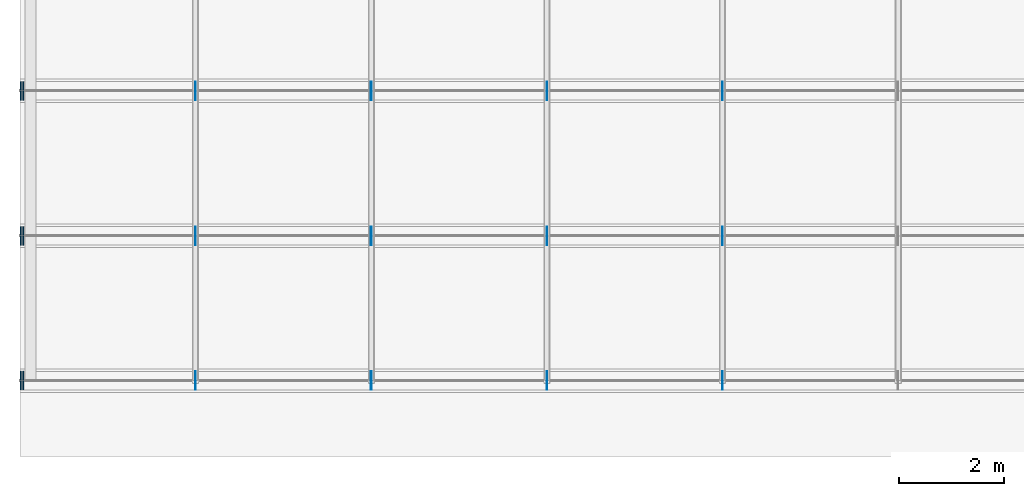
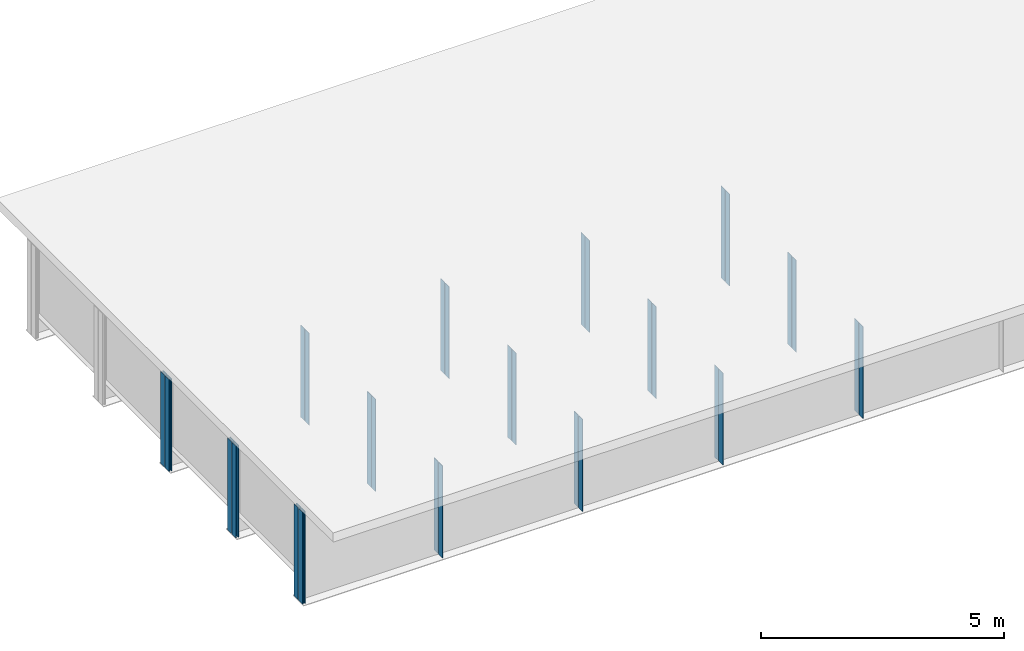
# One storey, part 3 of 19: 36 plates.
"""IFC4 building model written with IfcOpenShell, lengths in metres."""

import ifcopenshell
import ifcopenshell.guid

model = None  # the IFC model being written
_history = None  # IfcOwnerHistory: only IFC2X3 demands one
_inside = {}  # id of a spatial element -> (the spatial element, [elements in it])
_under = {}  # id of a project, library or spatial element -> (it, [spatial elements below it])
_declared = {}  # id of a project -> (the project, [libraries it declares])
_typed = {}  # id of a type object -> (the type object, [elements of that type])
_made_of = {}  # id of a material, layer set ... -> (it, [elements and type objects made of it])


def new_model(schema):
    """Start an empty IFC model of exactly this schema.

    Asked for "IFC4X3", IfcOpenShell would pick the latest addendum, in which some entities
    have other attributes; the version numbers below select the first issue.
    IFC2X3 requires an IfcOwnerHistory on every rooted entity: one is made here for all.
    """
    global model, _history
    if schema == "IFC4X3":
        model = ifcopenshell.file(schema_version=(4, 3, 0, 0))
    else:
        model = ifcopenshell.file(schema=schema)
    _inside.clear()
    _under.clear()
    _declared.clear()
    _typed.clear()
    _made_of.clear()
    _history = None
    if model.schema == "IFC2X3":
        org = make("IfcOrganization", Name="unknown")
        user = make(
            "IfcPersonAndOrganization",
            ThePerson=make("IfcPerson", FamilyName="unknown"),
            TheOrganization=org,
        )
        app = make(
            "IfcApplication",
            ApplicationDeveloper=org,
            Version="unknown",
            ApplicationFullName="unknown",
            ApplicationIdentifier="unknown",
        )
        _history = make(
            "IfcOwnerHistory",
            OwningUser=user,
            OwningApplication=app,
            ChangeAction="ADDED",
            CreationDate=0,
        )
    return model


def make(cls, **values):
    """One entity of the class cls with the attributes given. An attribute that is None is left unset."""
    return model.create_entity(
        cls, **{name: value for name, value in values.items() if value is not None}
    )


def rooted(cls, **values):
    """An entity with a GlobalId (a new one), such as an element, a storey or a relation."""
    return make(cls, GlobalId=ifcopenshell.guid.new(), OwnerHistory=_history, **values)


def si_unit(unit_type, name, prefix=None):
    """IfcSIUnit, for example si_unit("LENGTHUNIT", "METRE", prefix="MILLI")."""
    return make("IfcSIUnit", UnitType=unit_type, Prefix=prefix, Name=name)


def assignment(units):
    """IfcUnitAssignment: the units of a project."""
    return None if units is None else make("IfcUnitAssignment", Units=units)


def point(xyz):
    """IfcCartesianPoint."""
    return None if xyz is None else make("IfcCartesianPoint", Coordinates=xyz)


def direction(xyz):
    """IfcDirection."""
    return None if xyz is None else make("IfcDirection", DirectionRatios=xyz)


def frame(location, z_axis=None, x_axis=None):
    """IfcAxis2Placement3D, a coordinate frame: its origin and axes. An axis left out is left unset."""
    return make(
        "IfcAxis2Placement3D",
        Location=point(location),
        Axis=direction(z_axis),
        RefDirection=direction(x_axis),
    )


def frame_2d(location, x_axis=None):
    """IfcAxis2Placement2D, a coordinate frame in the plane: its origin and x axis."""
    return make(
        "IfcAxis2Placement2D", Location=point(location), RefDirection=direction(x_axis)
    )


def origin():
    """The frame at (0, 0, 0) with its axes left unset."""
    return frame((0.0, 0.0, 0.0))


def origin_with_axes():
    """The frame at (0, 0, 0) with the z axis (0, 0, 1) and the x axis (1, 0, 0) written out."""
    return frame((0.0, 0.0, 0.0), z_axis=(0.0, 0.0, 1.0), x_axis=(1.0, 0.0, 0.0))


def origin_2d_with_axis():
    """The frame at (0, 0) in the plane with the x axis (1, 0) written out."""
    return frame_2d((0.0, 0.0), x_axis=(1.0, 0.0))


def place(relative_to, where):
    """IfcLocalPlacement: puts the frame where relative to a parent placement (None: the world)."""
    return make(
        "IfcLocalPlacement", PlacementRelTo=relative_to, RelativePlacement=where
    )


def context(
    kind, dimensions, precision=None, world=None, true_north=None, identifier=None
):
    """IfcGeometricRepresentationContext, for example the 3D "Model" context."""
    return make(
        "IfcGeometricRepresentationContext",
        ContextIdentifier=identifier,
        ContextType=kind,
        CoordinateSpaceDimension=dimensions,
        Precision=precision,
        WorldCoordinateSystem=world,
        TrueNorth=true_north,
    )


def subcontext(parent, identifier, kind, view, scale=None):
    """IfcGeometricRepresentationSubContext, for example "Body" below "Model"."""
    return make(
        "IfcGeometricRepresentationSubContext",
        ContextIdentifier=identifier,
        ContextType=kind,
        ParentContext=parent,
        TargetScale=scale,
        TargetView=view,
    )


def project(units=None, contexts=None):
    """IfcProject with its units and contexts."""
    return rooted(
        "IfcProject",
        Name="project",
        RepresentationContexts=contexts,
        UnitsInContext=assignment(units),
    )


def spatial(cls, under=None, at=None, **own):
    """A site, building, storey or space (cls), placed at a placement, below another one or the project."""
    s = rooted(cls, ObjectPlacement=at, **own)
    if under is not None:
        _under.setdefault(under.id(), (under, []))[1].append(s)
    return s


def profile(cls, at=None, kind="AREA", **sizes):
    """A parametric profile (cls). Its sizes go by their IFC names, for example OverallWidth=200.0."""
    return make(cls, ProfileType=kind, Position=at, **sizes)


def rectangle(**sizes):
    """IfcRectangleProfileDef."""
    return profile("IfcRectangleProfileDef", **sizes)


def extrude(swept, where, along, depth):
    """IfcExtrudedAreaSolid: the profile swept, set in the frame where, extruded along a direction by depth."""
    return make(
        "IfcExtrudedAreaSolid",
        SweptArea=swept,
        Position=where,
        ExtrudedDirection=direction(along),
        Depth=depth,
    )


def shape(context_of_items, identifier, shape_type, items):
    """IfcShapeRepresentation: the items that make up one representation, for example the "Body"."""
    return make(
        "IfcShapeRepresentation",
        ContextOfItems=context_of_items,
        RepresentationIdentifier=identifier,
        RepresentationType=shape_type,
        Items=items,
    )


def made_of(thing, what):
    """Note that an element or type object is made of a material, layer set ...; save() writes the relation."""
    if what is not None:
        _made_of.setdefault(what.id(), (what, []))[1].append(thing)
    return thing


def element(
    cls,
    number,
    at=None,
    inside=None,
    cuts=None,
    type_object=None,
    material=None,
    context=None,
    identifier="Body",
    shape_type=None,
    held_by="IfcProductDefinitionShape",
    body=None,
    shapes=None,
    **own,
):
    """One element of the class cls, such as IfcWall. Its Tag is "e" and its number.

    at: its placement. inside: the storey or other place that contains it. cuts: it is an
    opening in that element (IfcRelVoidsElement). A single representation is given by context,
    identifier, shape_type and body (its items); several are given by shapes. held_by: the class
    of the entity that holds the representations. save() writes the other relations.
    """
    e = rooted(cls, Tag="e%d" % number, ObjectPlacement=at, **own)
    if body is not None:
        shapes = [shape(context, identifier, shape_type, body)]
    if shapes is not None:
        e.Representation = make(held_by, Representations=shapes)
    if inside is not None:
        _inside.setdefault(inside.id(), (inside, []))[1].append(e)
    if cuts is not None:
        rooted(
            "IfcRelVoidsElement", RelatingBuildingElement=cuts, RelatedOpeningElement=e
        )
    if type_object is not None:
        _typed.setdefault(type_object.id(), (type_object, []))[1].append(e)
    return made_of(e, material)


def aggregate(whole, parts):
    """IfcRelAggregates: a whole, such as a stair, and the parts it consists of."""
    return rooted("IfcRelAggregates", RelatingObject=whole, RelatedObjects=parts)


def save(model, path):
    """Write the relations noted so far, then the file.

    IfcRelAggregates (storeys below a building ...), IfcRelContainedInSpatialStructure (elements
    in a storey), IfcRelDefinesByType, IfcRelAssociatesMaterial and IfcRelDeclares: one each for
    every whole, place, type object, material and project.
    """
    for whole, parts in _under.values():
        aggregate(whole, parts)
    for where, things in _inside.values():
        rooted(
            "IfcRelContainedInSpatialStructure",
            RelatedElements=things,
            RelatingStructure=where,
        )
    for kind, things in _typed.values():
        rooted("IfcRelDefinesByType", RelatedObjects=things, RelatingType=kind)
    for what, things in _made_of.values():
        rooted("IfcRelAssociatesMaterial", RelatedObjects=things, RelatingMaterial=what)
    for by, libraries in _declared.values():
        rooted("IfcRelDeclares", RelatingContext=by, RelatedDefinitions=libraries)
    model.write(path)


model = new_model("IFC4")

# Units and contexts
model_context = context("Model", 3, precision=1e-05, world=origin())
body_context = subcontext(model_context, "Body", "Model", "MODEL_VIEW")
ifc_project = project(units=[si_unit("LENGTHUNIT", "METRE"), si_unit("AREAUNIT", "SQUARE_METRE"), si_unit("VOLUMEUNIT", "CUBIC_METRE"), si_unit("PLANEANGLEUNIT", "RADIAN")], contexts=[model_context])

# Site, building, storey
site_placement = place(None, origin_with_axes())
site = spatial("IfcSite", under=ifc_project, at=site_placement, Name="Default Site")
building_placement = place(site_placement, origin_with_axes())
building = spatial("IfcBuilding", under=site, at=building_placement, Name="Bridge Structure")
storey_placement = place(building_placement, origin_with_axes())
storey = spatial("IfcBuildingStorey", under=building, at=storey_placement, Name="Superstructure")

# Plates
for number, where, z_axis, x_axis, name in (
    (1, (3.333, -5.4085, -1.157), (0.0, 0.0, 1.0), (1.0, 0.0, 0.0), "Intermediate Stiffener 1"),
    (2, (3.333, -5.5915, -1.157), (0.0, 0.0, 1.0), (1.0, 0.0, 0.0), "Intermediate Stiffener 1"),
    (3, (6.666, -5.4085, -1.157), (0.0, 0.0, 1.0), (1.0, 0.0, 0.0), "Intermediate Stiffener 1"),
    (4, (6.666, -5.5915, -1.157), (0.0, 0.0, 1.0), (1.0, 0.0, 0.0), "Intermediate Stiffener 1"),
    (5, (9.999, -5.4085, -1.157), (0.0, 0.0, 1.0), (1.0, 0.0, 0.0), "Intermediate Stiffener 1"),
    (6, (9.999, -5.5915, -1.157), (0.0, 0.0, 1.0), (1.0, 0.0, 0.0), "Intermediate Stiffener 1"),
    (7, (13.332, -5.4085, -1.157), (0.0, 0.0, 1.0), (1.0, 0.0, 0.0), "Intermediate Stiffener 1"),
    (8, (13.332, -5.5915, -1.157), (0.0, 0.0, 1.0), (1.0, 0.0, 0.0), "Intermediate Stiffener 1"),
):
    element("IfcPlate", number, at=place(storey_placement, frame(where, z_axis=z_axis, x_axis=x_axis)), inside=storey, Name=name, context=body_context, shape_type="SweptSolid", body=[
        extrude(rectangle(XDim=0.012, YDim=0.167, at=origin_2d_with_axis()), origin_with_axes(), (0.0, 0.0, 1.0), 2.314),
    ])
for number, where, z_axis, x_axis, name in (
    (9, (0.01, -5.4085, -1.157), (0.0, 0.0, 1.0), (1.0, 0.0, 0.0), "End Stiffener 1"),
    (10, (0.01, -5.5915, -1.157), (0.0, 0.0, 1.0), (1.0, 0.0, 0.0), "End Stiffener 1"),
    (11, (0.06, -5.4085, -1.157), (0.0, 0.0, 1.0), (1.0, 0.0, 0.0), "End Stiffener 1"),
    (12, (0.06, -5.5915, -1.157), (0.0, 0.0, 1.0), (1.0, 0.0, 0.0), "End Stiffener 1"),
):
    element("IfcPlate", number, at=place(storey_placement, frame(where, z_axis=z_axis, x_axis=x_axis)), inside=storey, Name=name, context=body_context, shape_type="SweptSolid", body=[
        extrude(rectangle(XDim=0.02, YDim=0.167, at=origin_2d_with_axis()), origin_with_axes(), (0.0, 0.0, 1.0), 2.314),
    ])
for number, where, z_axis, x_axis, name in (
    (13, (3.333, -2.6585, -1.157), (0.0, 0.0, 1.0), (1.0, 0.0, 0.0), "Intermediate Stiffener 2"),
    (14, (3.333, -2.8415, -1.157), (0.0, 0.0, 1.0), (1.0, 0.0, 0.0), "Intermediate Stiffener 2"),
    (15, (6.666, -2.6585, -1.157), (0.0, 0.0, 1.0), (1.0, 0.0, 0.0), "Intermediate Stiffener 2"),
    (16, (6.666, -2.8415, -1.157), (0.0, 0.0, 1.0), (1.0, 0.0, 0.0), "Intermediate Stiffener 2"),
    (17, (9.999, -2.6585, -1.157), (0.0, 0.0, 1.0), (1.0, 0.0, 0.0), "Intermediate Stiffener 2"),
    (18, (9.999, -2.8415, -1.157), (0.0, 0.0, 1.0), (1.0, 0.0, 0.0), "Intermediate Stiffener 2"),
    (19, (13.332, -2.6585, -1.157), (0.0, 0.0, 1.0), (1.0, 0.0, 0.0), "Intermediate Stiffener 2"),
    (20, (13.332, -2.8415, -1.157), (0.0, 0.0, 1.0), (1.0, 0.0, 0.0), "Intermediate Stiffener 2"),
):
    element("IfcPlate", number, at=place(storey_placement, frame(where, z_axis=z_axis, x_axis=x_axis)), inside=storey, Name=name, context=body_context, shape_type="SweptSolid", body=[
        extrude(rectangle(XDim=0.012, YDim=0.167, at=origin_2d_with_axis()), origin_with_axes(), (0.0, 0.0, 1.0), 2.314),
    ])
for number, where, z_axis, x_axis, name in (
    (21, (0.01, -2.6585, -1.157), (0.0, 0.0, 1.0), (1.0, 0.0, 0.0), "End Stiffener 2"),
    (22, (0.01, -2.8415, -1.157), (0.0, 0.0, 1.0), (1.0, 0.0, 0.0), "End Stiffener 2"),
    (23, (0.06, -2.6585, -1.157), (0.0, 0.0, 1.0), (1.0, 0.0, 0.0), "End Stiffener 2"),
    (24, (0.06, -2.8415, -1.157), (0.0, 0.0, 1.0), (1.0, 0.0, 0.0), "End Stiffener 2"),
):
    element("IfcPlate", number, at=place(storey_placement, frame(where, z_axis=z_axis, x_axis=x_axis)), inside=storey, Name=name, context=body_context, shape_type="SweptSolid", body=[
        extrude(rectangle(XDim=0.02, YDim=0.167, at=origin_2d_with_axis()), origin_with_axes(), (0.0, 0.0, 1.0), 2.314),
    ])
for number, where, z_axis, x_axis, name in (
    (25, (3.333, 0.0915, -1.157), (0.0, 0.0, 1.0), (1.0, 0.0, 0.0), "Intermediate Stiffener 3"),
    (26, (3.333, -0.0915, -1.157), (0.0, 0.0, 1.0), (1.0, 0.0, 0.0), "Intermediate Stiffener 3"),
    (27, (6.666, 0.0915, -1.157), (0.0, 0.0, 1.0), (1.0, 0.0, 0.0), "Intermediate Stiffener 3"),
    (28, (6.666, -0.0915, -1.157), (0.0, 0.0, 1.0), (1.0, 0.0, 0.0), "Intermediate Stiffener 3"),
    (29, (9.999, 0.0915, -1.157), (0.0, 0.0, 1.0), (1.0, 0.0, 0.0), "Intermediate Stiffener 3"),
    (30, (9.999, -0.0915, -1.157), (0.0, 0.0, 1.0), (1.0, 0.0, 0.0), "Intermediate Stiffener 3"),
    (31, (13.332, 0.0915, -1.157), (0.0, 0.0, 1.0), (1.0, 0.0, 0.0), "Intermediate Stiffener 3"),
    (32, (13.332, -0.0915, -1.157), (0.0, 0.0, 1.0), (1.0, 0.0, 0.0), "Intermediate Stiffener 3"),
):
    element("IfcPlate", number, at=place(storey_placement, frame(where, z_axis=z_axis, x_axis=x_axis)), inside=storey, Name=name, context=body_context, shape_type="SweptSolid", body=[
        extrude(rectangle(XDim=0.012, YDim=0.167, at=origin_2d_with_axis()), origin_with_axes(), (0.0, 0.0, 1.0), 2.314),
    ])
for number, where, z_axis, x_axis, name in (
    (33, (0.01, 0.0915, -1.157), (0.0, 0.0, 1.0), (1.0, 0.0, 0.0), "End Stiffener 3"),
    (34, (0.01, -0.0915, -1.157), (0.0, 0.0, 1.0), (1.0, 0.0, 0.0), "End Stiffener 3"),
    (35, (0.06, 0.0915, -1.157), (0.0, 0.0, 1.0), (1.0, 0.0, 0.0), "End Stiffener 3"),
    (36, (0.06, -0.0915, -1.157), (0.0, 0.0, 1.0), (1.0, 0.0, 0.0), "End Stiffener 3"),
):
    element("IfcPlate", number, at=place(storey_placement, frame(where, z_axis=z_axis, x_axis=x_axis)), inside=storey, Name=name, context=body_context, shape_type="SweptSolid", body=[
        extrude(rectangle(XDim=0.02, YDim=0.167, at=origin_2d_with_axis()), origin_with_axes(), (0.0, 0.0, 1.0), 2.314),
    ])

save(model, "model.ifc")
